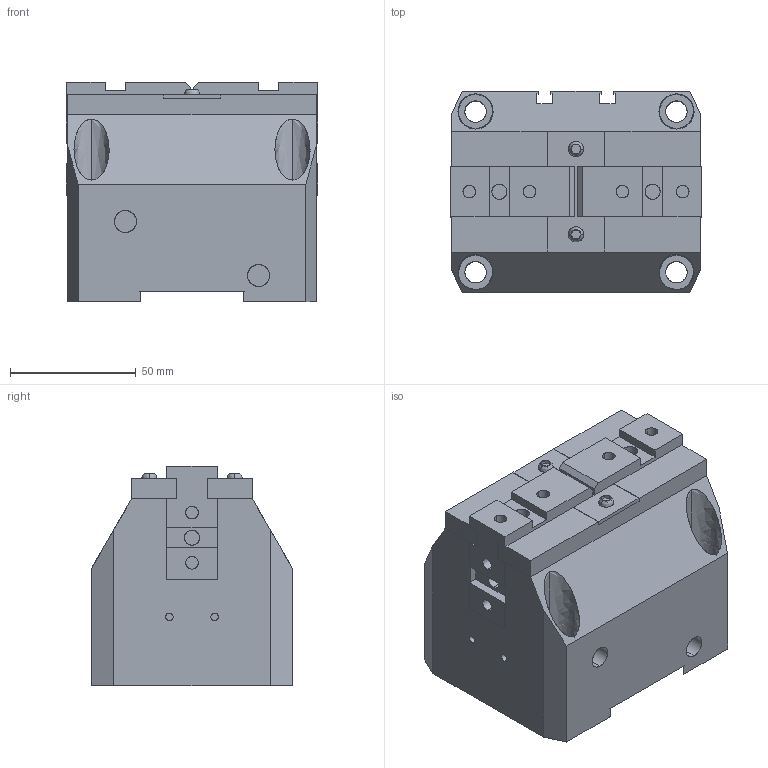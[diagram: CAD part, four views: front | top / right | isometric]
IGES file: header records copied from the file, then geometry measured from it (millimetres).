
Global section: file name: C:\Documents and Settings\Administrateur\Mes documents\OPE-100-CLOSED.igs; native system: AutoCAD-16.0s (LMS Tech) (Microsoft Windows NT Version 5.1 (x86)); preprocessor: Autodesk IGES Translator Mechanical Desktop.R7.0.43.0 (Mar 18 2003) from Autodesk, Inc.; date: 20050629.103609; units: millimetre
Bounding box: 100 x 80 x 87.5 mm (x, y, z)
Surface area: 86721.9 mm2 (no closed solid volume)
Topology: 0 solids, 0 shells, 225 faces, 2163 edges, 2248 vertices
Faces by surface type: bspline 225
